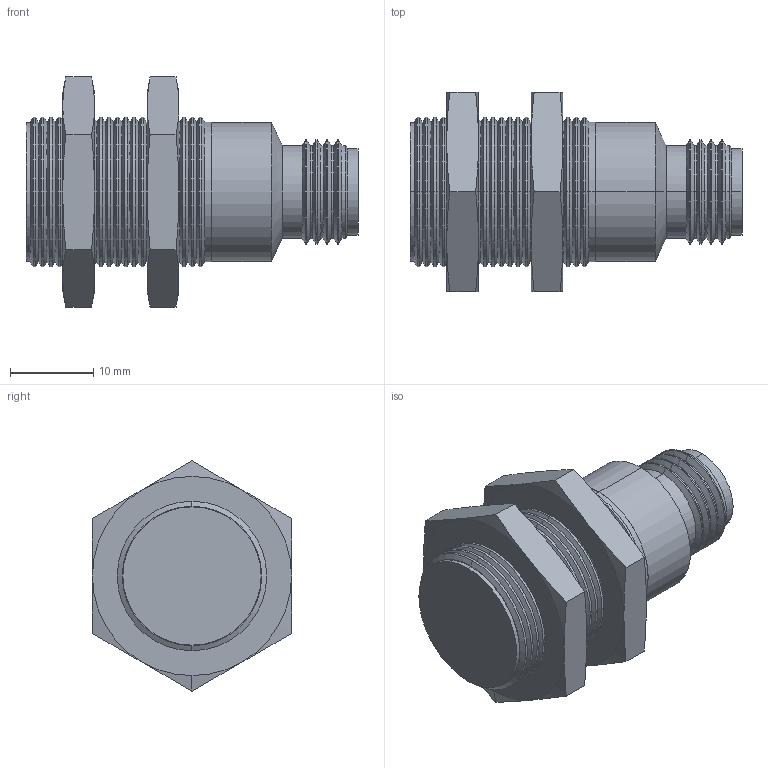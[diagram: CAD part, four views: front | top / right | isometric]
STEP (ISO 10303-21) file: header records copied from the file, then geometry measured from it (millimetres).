
FILE_DESCRIPTION (( 'STEP AP203' ), '1' );
FILE_NAME ('90-XXXX-001.STEP', '2015-10-28T13:05:35', ( 'Sam' ), ( 'Spade' ), 'SwSTEP 2.0', 'SolidWorks 2002296', '' );
FILE_SCHEMA (( 'CONFIG_CONTROL_DESIGN' ));
Length unit declared in the file: inch
Products named in the file (9): 90-XXXX-001; Imported2; Imported1; Imported; Imported5; Imported4; Imported3; Imported7; Imported6
Assembly tree (8 placements, depth 2):
  90-XXXX-001
    Imported6
    Imported5
    Imported1
    Imported7
    Imported4
    Imported3
    Imported2
    Imported
Bounding box: 39.95 x 23.98 x 27.69 mm (x, y, z)
Volume: 9722 mm3; surface area: 6755.1 mm2
Topology: 8 solids, 8 shells, 298 faces, 619 edges, 339 vertices
Faces by surface type: cone 168, cylinder 87, plane 37, bspline 6
Entity records: 8814 total; most frequent: CARTESIAN_POINT 1495, DIRECTION 1481, ORIENTED_EDGE 1226, EDGE_CURVE 613, AXIS2_PLACEMENT_3D 613, VERTEX_POINT 339, CIRCLE 310, EDGE_LOOP 310
